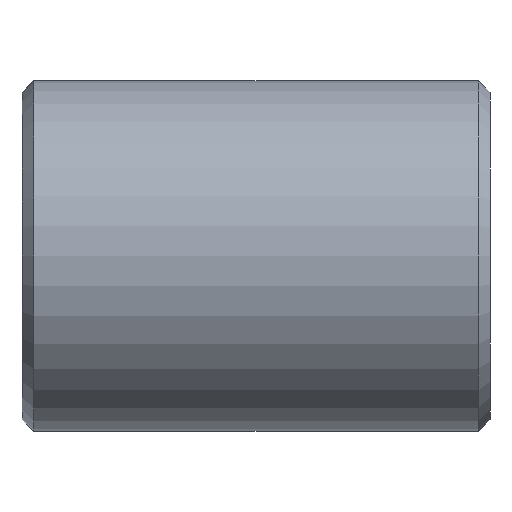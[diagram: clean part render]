
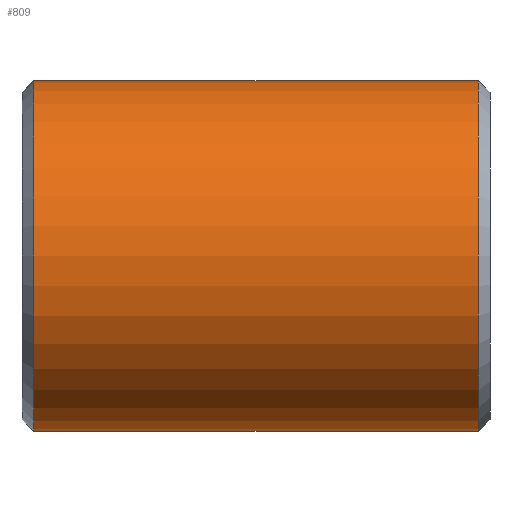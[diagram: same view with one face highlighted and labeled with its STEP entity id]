
A CAD part, left-side view. The second image highlights one B-rep face of the part: STEP entity #809.
In plain terms, the highlighted cylindrical face has radius 7.5 mm (diameter 15 mm), a partial arc.
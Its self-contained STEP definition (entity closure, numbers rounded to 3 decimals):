
#16 = DIRECTION ( 'NONE',  ( 0., 0., -1. ) ) ;
#57 = ORIENTED_EDGE ( 'NONE', *, *, #1249, .T. ) ;
#109 = ORIENTED_EDGE ( 'NONE', *, *, #194, .F. ) ;
#132 = DIRECTION ( 'NONE',  ( 0., -1., 0. ) ) ;
#158 = ORIENTED_EDGE ( 'NONE', *, *, #309, .T. ) ;
#194 = EDGE_CURVE ( 'NONE', #233, #779, #800, .T. ) ;
#206 = ORIENTED_EDGE ( 'NONE', *, *, #956, .T. ) ;
#233 = VERTEX_POINT ( 'NONE', #845 ) ;
#303 = DIRECTION ( 'NONE',  ( 0., 1., 0. ) ) ;
#309 = EDGE_CURVE ( 'NONE', #233, #1025, #1136, .T. ) ;
#342 = CIRCLE ( 'NONE', #824, 7.5 ) ;
#344 = CARTESIAN_POINT ( 'NONE',  ( 0., 1., 0. ) ) ;
#376 = VECTOR ( 'NONE', #303, 1000. ) ;
#425 = LINE ( 'NONE', #629, #376 ) ;
#433 = CARTESIAN_POINT ( 'NONE',  ( 0., -18., 0. ) ) ;
#443 = CARTESIAN_POINT ( 'NONE',  ( 0., -18., 7.5 ) ) ;
#520 = DIRECTION ( 'NONE',  ( 0., 1., 0. ) ) ;
#538 = VERTEX_POINT ( 'NONE', #1078 ) ;
#542 = VECTOR ( 'NONE', #520, 1000. ) ;
#579 = CARTESIAN_POINT ( 'NONE',  ( 0., 1., -7.5 ) ) ;
#629 = CARTESIAN_POINT ( 'NONE',  ( 0., 65.513, 7.5 ) ) ;
#643 = AXIS2_PLACEMENT_3D ( 'NONE', #698, #784, #1102 ) ;
#698 = CARTESIAN_POINT ( 'NONE',  ( 0., 65.513, 0. ) ) ;
#755 = AXIS2_PLACEMENT_3D ( 'NONE', #433, #857, #16 ) ;
#779 = VERTEX_POINT ( 'NONE', #579 ) ;
#784 = DIRECTION ( 'NONE',  ( 0., 1., 0. ) ) ;
#800 = LINE ( 'NONE', #940, #542 ) ;
#809 = ADVANCED_FACE ( 'NONE', ( #945 ), #1115, .T. ) ;
#824 = AXIS2_PLACEMENT_3D ( 'NONE', #344, #132, #1211 ) ;
#845 = CARTESIAN_POINT ( 'NONE',  ( 0., -18., -7.5 ) ) ;
#857 = DIRECTION ( 'NONE',  ( 0., 1., 0. ) ) ;
#940 = CARTESIAN_POINT ( 'NONE',  ( 0., 65.513, -7.5 ) ) ;
#945 = FACE_OUTER_BOUND ( 'NONE', #946, .T. ) ;
#946 = EDGE_LOOP ( 'NONE', ( #109, #158, #206, #57 ) ) ;
#956 = EDGE_CURVE ( 'NONE', #1025, #538, #425, .T. ) ;
#1025 = VERTEX_POINT ( 'NONE', #443 ) ;
#1078 = CARTESIAN_POINT ( 'NONE',  ( 0., 1., 7.5 ) ) ;
#1102 = DIRECTION ( 'NONE',  ( 0., 0., 1. ) ) ;
#1115 = CYLINDRICAL_SURFACE ( 'NONE', #643, 7.5 ) ;
#1136 = CIRCLE ( 'NONE', #755, 7.5 ) ;
#1211 = DIRECTION ( 'NONE',  ( 0., 0., 1. ) ) ;
#1249 = EDGE_CURVE ( 'NONE', #538, #779, #342, .T. ) ;
